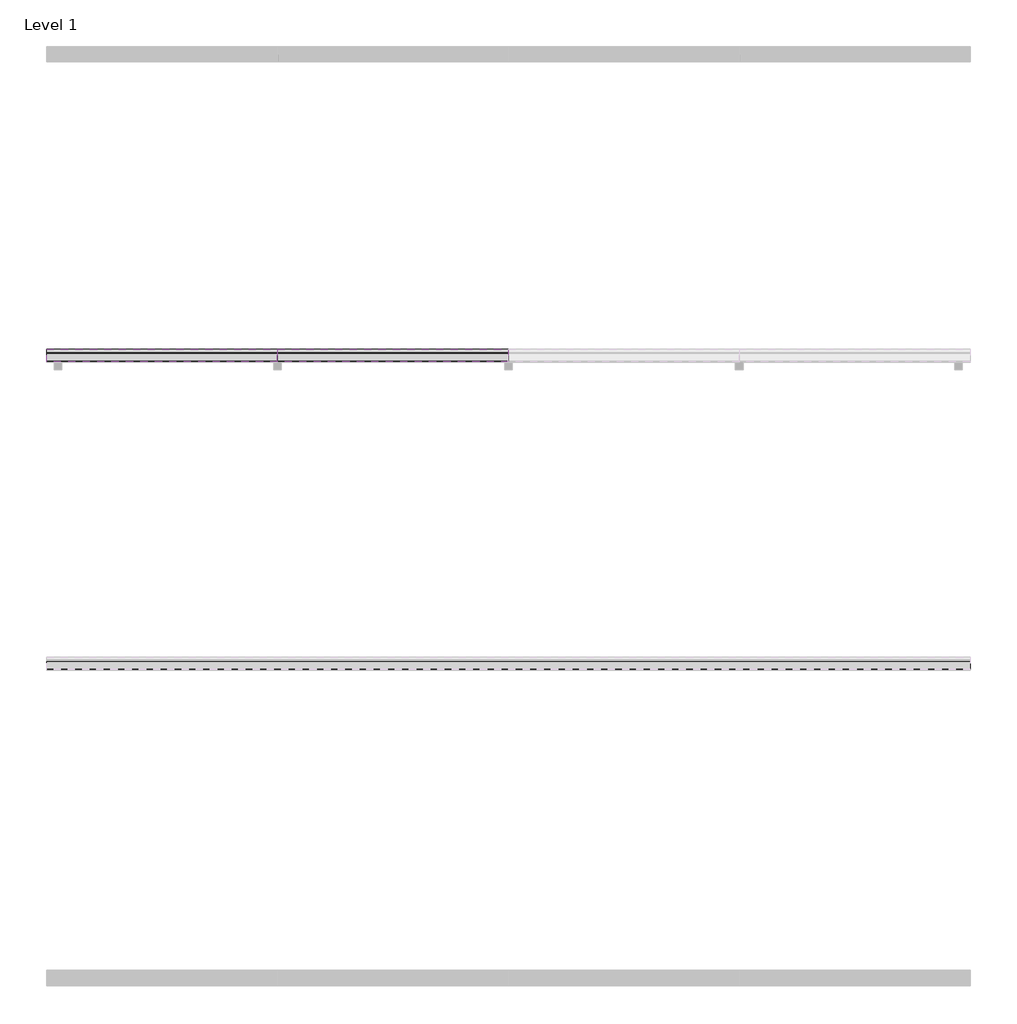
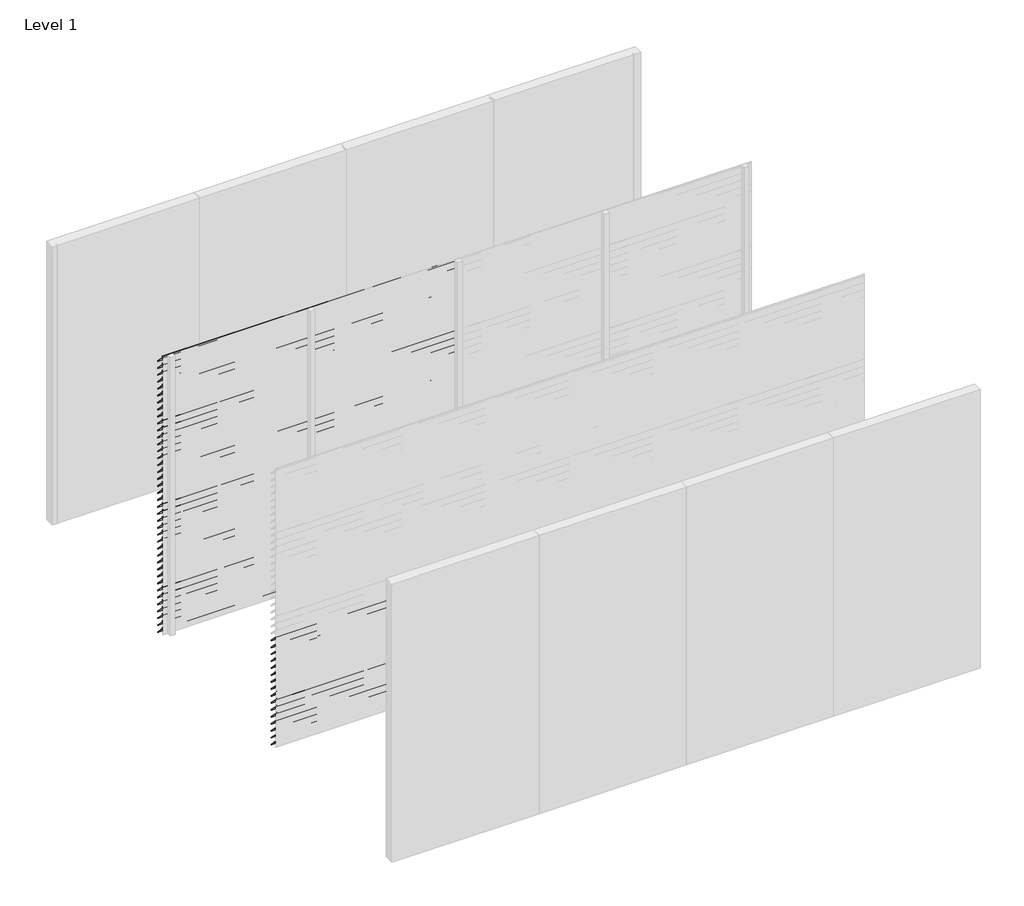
# One storey, part 4 of 9: 95 proxies.
"""IFC4 building model written with IfcOpenShell, lengths in millimetres."""

from ifc_helpers import new_model, si_unit, frame, origin, place, context, project, spatial, polyline, outline, extrude, element, save

model = new_model("IFC4")

# Units and contexts
model_context = context("Model", 3, world=origin())
ifc_project = project(units=[si_unit("LENGTHUNIT", "METRE", prefix="MILLI")], contexts=[model_context])

# Site, building, storey
site = spatial("IfcSite", under=ifc_project)
building = spatial("IfcBuilding", under=site)
storey = spatial("IfcBuildingStorey", under=building, Name="Level 1", Elevation=0.0)

# Proxies
placement = place(None, origin())
element("IfcBuildingElementProxy", 1, Name="Wall Sweeps", at=placement, inside=storey, context=model_context, shape_type="SweptSolid", body=[
    extrude(outline(polyline([(-11995.0, 3000.0), (-11995.0, 2987.7713645), (-11917.0, 2907.0), (-11917.0, 2898.0), (-11997.0, 2980.8424251), (-11997.0, 3000.0), (-11995.0, 3000.0)])), frame((0.0, 0.0, 0.0), z_axis=(1.0, 0.0, 0.0), x_axis=(0.0, 1.0, 0.0)), (0.0, 0.0, 1.0), 1500.0),
])
element("IfcBuildingElementProxy", 2, Name="Wall Sweeps", at=placement, inside=storey, context=model_context, shape_type="SweptSolid", body=[
    extrude(outline(polyline([(-11995.0, 2925.0), (-11995.0, 2912.7713645), (-11917.0, 2832.0), (-11917.0, 2823.0), (-11997.0, 2905.8424251), (-11997.0, 2925.0), (-11995.0, 2925.0)])), frame((0.0, 0.0, 0.0), z_axis=(1.0, 0.0, 0.0), x_axis=(0.0, 1.0, 0.0)), (0.0, 0.0, 1.0), 1500.0),
])
element("IfcBuildingElementProxy", 3, Name="Wall Sweeps", at=placement, inside=storey, context=model_context, shape_type="SweptSolid", body=[
    extrude(outline(polyline([(-11995.0, 2850.0), (-11995.0, 2837.7713645), (-11917.0, 2757.0), (-11917.0, 2748.0), (-11997.0, 2830.8424251), (-11997.0, 2850.0), (-11995.0, 2850.0)])), frame((0.0, 0.0, 0.0), z_axis=(1.0, 0.0, 0.0), x_axis=(0.0, 1.0, 0.0)), (0.0, 0.0, 1.0), 1500.0),
])
element("IfcBuildingElementProxy", 4, Name="Wall Sweeps", at=placement, inside=storey, context=model_context, shape_type="SweptSolid", body=[
    extrude(outline(polyline([(-11995.0, 2775.0), (-11995.0, 2762.7713645), (-11917.0, 2682.0), (-11917.0, 2673.0), (-11997.0, 2755.8424251), (-11997.0, 2775.0), (-11995.0, 2775.0)])), frame((0.0, 0.0, 0.0), z_axis=(1.0, 0.0, 0.0), x_axis=(0.0, 1.0, 0.0)), (0.0, 0.0, 1.0), 1500.0),
])
element("IfcBuildingElementProxy", 5, Name="Wall Sweeps", at=placement, inside=storey, context=model_context, shape_type="SweptSolid", body=[
    extrude(outline(polyline([(-11995.0, 2700.0), (-11995.0, 2687.7713645), (-11917.0, 2607.0), (-11917.0, 2598.0), (-11997.0, 2680.8424251), (-11997.0, 2700.0), (-11995.0, 2700.0)])), frame((0.0, 0.0, 0.0), z_axis=(1.0, 0.0, 0.0), x_axis=(0.0, 1.0, 0.0)), (0.0, 0.0, 1.0), 1500.0),
])
element("IfcBuildingElementProxy", 6, Name="Wall Sweeps", at=placement, inside=storey, context=model_context, shape_type="SweptSolid", body=[
    extrude(outline(polyline([(-11995.0, 2625.0), (-11995.0, 2612.7713645), (-11917.0, 2532.0), (-11917.0, 2523.0), (-11997.0, 2605.8424251), (-11997.0, 2625.0), (-11995.0, 2625.0)])), frame((0.0, 0.0, 0.0), z_axis=(1.0, 0.0, 0.0), x_axis=(0.0, 1.0, 0.0)), (0.0, 0.0, 1.0), 1500.0),
])
element("IfcBuildingElementProxy", 7, Name="Wall Sweeps", at=placement, inside=storey, context=model_context, shape_type="SweptSolid", body=[
    extrude(outline(polyline([(-11995.0, 2550.0), (-11995.0, 2537.7713645), (-11917.0, 2457.0), (-11917.0, 2448.0), (-11997.0, 2530.8424251), (-11997.0, 2550.0), (-11995.0, 2550.0)])), frame((0.0, 0.0, 0.0), z_axis=(1.0, 0.0, 0.0), x_axis=(0.0, 1.0, 0.0)), (0.0, 0.0, 1.0), 1500.0),
])
element("IfcBuildingElementProxy", 8, Name="Wall Sweeps", at=placement, inside=storey, context=model_context, shape_type="SweptSolid", body=[
    extrude(outline(polyline([(-11995.0, 2475.0), (-11995.0, 2462.7713645), (-11917.0, 2382.0), (-11917.0, 2373.0), (-11997.0, 2455.8424251), (-11997.0, 2475.0), (-11995.0, 2475.0)])), frame((0.0, 0.0, 0.0), z_axis=(1.0, 0.0, 0.0), x_axis=(0.0, 1.0, 0.0)), (0.0, 0.0, 1.0), 1500.0),
])
element("IfcBuildingElementProxy", 9, Name="Wall Sweeps", at=placement, inside=storey, context=model_context, shape_type="SweptSolid", body=[
    extrude(outline(polyline([(-11995.0, 2400.0), (-11995.0, 2387.7713645), (-11917.0, 2307.0), (-11917.0, 2298.0), (-11997.0, 2380.8424251), (-11997.0, 2400.0), (-11995.0, 2400.0)])), frame((0.0, 0.0, 0.0), z_axis=(1.0, 0.0, 0.0), x_axis=(0.0, 1.0, 0.0)), (0.0, 0.0, 1.0), 1500.0),
])
element("IfcBuildingElementProxy", 10, Name="Wall Sweeps", at=placement, inside=storey, context=model_context, shape_type="SweptSolid", body=[
    extrude(outline(polyline([(-11995.0, 2325.0), (-11995.0, 2312.7713645), (-11917.0, 2232.0), (-11917.0, 2223.0), (-11997.0, 2305.8424251), (-11997.0, 2325.0), (-11995.0, 2325.0)])), frame((0.0, 0.0, 0.0), z_axis=(1.0, 0.0, 0.0), x_axis=(0.0, 1.0, 0.0)), (0.0, 0.0, 1.0), 1500.0),
])
element("IfcBuildingElementProxy", 11, Name="Wall Sweeps", at=placement, inside=storey, context=model_context, shape_type="SweptSolid", body=[
    extrude(outline(polyline([(-11995.0, 2250.0), (-11995.0, 2237.7713645), (-11917.0, 2157.0), (-11917.0, 2148.0), (-11997.0, 2230.8424251), (-11997.0, 2250.0), (-11995.0, 2250.0)])), frame((0.0, 0.0, 0.0), z_axis=(1.0, 0.0, 0.0), x_axis=(0.0, 1.0, 0.0)), (0.0, 0.0, 1.0), 1500.0),
])
element("IfcBuildingElementProxy", 12, Name="Wall Sweeps", at=placement, inside=storey, context=model_context, shape_type="SweptSolid", body=[
    extrude(outline(polyline([(-11995.0, 2175.0), (-11995.0, 2162.7713645), (-11917.0, 2082.0), (-11917.0, 2073.0), (-11997.0, 2155.8424251), (-11997.0, 2175.0), (-11995.0, 2175.0)])), frame((0.0, 0.0, 0.0), z_axis=(1.0, 0.0, 0.0), x_axis=(0.0, 1.0, 0.0)), (0.0, 0.0, 1.0), 1500.0),
])
element("IfcBuildingElementProxy", 13, Name="Wall Sweeps", at=placement, inside=storey, context=model_context, shape_type="SweptSolid", body=[
    extrude(outline(polyline([(-11995.0, 2100.0), (-11995.0, 2087.7713645), (-11917.0, 2007.0), (-11917.0, 1998.0), (-11997.0, 2080.8424251), (-11997.0, 2100.0), (-11995.0, 2100.0)])), frame((0.0, 0.0, 0.0), z_axis=(1.0, 0.0, 0.0), x_axis=(0.0, 1.0, 0.0)), (0.0, 0.0, 1.0), 1500.0),
])
element("IfcBuildingElementProxy", 14, Name="Wall Sweeps", at=placement, inside=storey, context=model_context, shape_type="SweptSolid", body=[
    extrude(outline(polyline([(-11995.0, 2025.0), (-11995.0, 2012.7713645), (-11917.0, 1932.0), (-11917.0, 1923.0), (-11997.0, 2005.8424251), (-11997.0, 2025.0), (-11995.0, 2025.0)])), frame((0.0, 0.0, 0.0), z_axis=(1.0, 0.0, 0.0), x_axis=(0.0, 1.0, 0.0)), (0.0, 0.0, 1.0), 1500.0),
])
element("IfcBuildingElementProxy", 15, Name="Wall Sweeps", at=placement, inside=storey, context=model_context, shape_type="SweptSolid", body=[
    extrude(outline(polyline([(-11995.0, 1950.0), (-11995.0, 1937.7713645), (-11917.0, 1857.0), (-11917.0, 1848.0), (-11997.0, 1930.8424251), (-11997.0, 1950.0), (-11995.0, 1950.0)])), frame((0.0, 0.0, 0.0), z_axis=(1.0, 0.0, 0.0), x_axis=(0.0, 1.0, 0.0)), (0.0, 0.0, 1.0), 1500.0),
])
element("IfcBuildingElementProxy", 16, Name="Wall Sweeps", at=placement, inside=storey, context=model_context, shape_type="SweptSolid", body=[
    extrude(outline(polyline([(-11995.0, 1875.0), (-11995.0, 1862.7713645), (-11917.0, 1782.0), (-11917.0, 1773.0), (-11997.0, 1855.8424251), (-11997.0, 1875.0), (-11995.0, 1875.0)])), frame((0.0, 0.0, 0.0), z_axis=(1.0, 0.0, 0.0), x_axis=(0.0, 1.0, 0.0)), (0.0, 0.0, 1.0), 1500.0),
])
element("IfcBuildingElementProxy", 17, Name="Wall Sweeps", at=placement, inside=storey, context=model_context, shape_type="SweptSolid", body=[
    extrude(outline(polyline([(-11995.0, 1800.0), (-11995.0, 1787.7713645), (-11917.0, 1707.0), (-11917.0, 1698.0), (-11997.0, 1780.8424251), (-11997.0, 1800.0), (-11995.0, 1800.0)])), frame((0.0, 0.0, 0.0), z_axis=(1.0, 0.0, 0.0), x_axis=(0.0, 1.0, 0.0)), (0.0, 0.0, 1.0), 1500.0),
])
element("IfcBuildingElementProxy", 18, Name="Wall Sweeps", at=placement, inside=storey, context=model_context, shape_type="SweptSolid", body=[
    extrude(outline(polyline([(-11995.0, 1725.0), (-11995.0, 1712.7713645), (-11917.0, 1632.0), (-11917.0, 1623.0), (-11997.0, 1705.8424251), (-11997.0, 1725.0), (-11995.0, 1725.0)])), frame((0.0, 0.0, 0.0), z_axis=(1.0, 0.0, 0.0), x_axis=(0.0, 1.0, 0.0)), (0.0, 0.0, 1.0), 1500.0),
])
element("IfcBuildingElementProxy", 19, Name="Wall Sweeps", at=placement, inside=storey, context=model_context, shape_type="SweptSolid", body=[
    extrude(outline(polyline([(-11995.0, 1650.0), (-11995.0, 1637.7713645), (-11917.0, 1557.0), (-11917.0, 1548.0), (-11997.0, 1630.8424251), (-11997.0, 1650.0), (-11995.0, 1650.0)])), frame((0.0, 0.0, 0.0), z_axis=(1.0, 0.0, 0.0), x_axis=(0.0, 1.0, 0.0)), (0.0, 0.0, 1.0), 1500.0),
])
element("IfcBuildingElementProxy", 20, Name="Wall Sweeps", at=placement, inside=storey, context=model_context, shape_type="SweptSolid", body=[
    extrude(outline(polyline([(-11995.0, 1575.0), (-11995.0, 1562.7713645), (-11917.0, 1482.0), (-11917.0, 1473.0), (-11997.0, 1555.8424251), (-11997.0, 1575.0), (-11995.0, 1575.0)])), frame((0.0, 0.0, 0.0), z_axis=(1.0, 0.0, 0.0), x_axis=(0.0, 1.0, 0.0)), (0.0, 0.0, 1.0), 1500.0),
])
element("IfcBuildingElementProxy", 21, Name="Wall Sweeps", at=placement, inside=storey, context=model_context, shape_type="SweptSolid", body=[
    extrude(outline(polyline([(-11995.0, 1500.0), (-11995.0, 1487.7713645), (-11917.0, 1407.0), (-11917.0, 1398.0), (-11997.0, 1480.8424251), (-11997.0, 1500.0), (-11995.0, 1500.0)])), frame((0.0, 0.0, 0.0), z_axis=(1.0, 0.0, 0.0), x_axis=(0.0, 1.0, 0.0)), (0.0, 0.0, 1.0), 1500.0),
])
element("IfcBuildingElementProxy", 22, Name="Wall Sweeps", at=placement, inside=storey, context=model_context, shape_type="SweptSolid", body=[
    extrude(outline(polyline([(-11995.0, 1425.0), (-11995.0, 1412.7713645), (-11917.0, 1332.0), (-11917.0, 1323.0), (-11997.0, 1405.8424251), (-11997.0, 1425.0), (-11995.0, 1425.0)])), frame((0.0, 0.0, 0.0), z_axis=(1.0, 0.0, 0.0), x_axis=(0.0, 1.0, 0.0)), (0.0, 0.0, 1.0), 1500.0),
])
element("IfcBuildingElementProxy", 23, Name="Wall Sweeps", at=placement, inside=storey, context=model_context, shape_type="SweptSolid", body=[
    extrude(outline(polyline([(-11995.0, 1350.0), (-11995.0, 1337.7713645), (-11917.0, 1257.0), (-11917.0, 1248.0), (-11997.0, 1330.8424251), (-11997.0, 1350.0), (-11995.0, 1350.0)])), frame((0.0, 0.0, 0.0), z_axis=(1.0, 0.0, 0.0), x_axis=(0.0, 1.0, 0.0)), (0.0, 0.0, 1.0), 1500.0),
])
element("IfcBuildingElementProxy", 24, Name="Wall Sweeps", at=placement, inside=storey, context=model_context, shape_type="SweptSolid", body=[
    extrude(outline(polyline([(-11995.0, 1275.0), (-11995.0, 1262.7713645), (-11917.0, 1182.0), (-11917.0, 1173.0), (-11997.0, 1255.8424251), (-11997.0, 1275.0), (-11995.0, 1275.0)])), frame((0.0, 0.0, 0.0), z_axis=(1.0, 0.0, 0.0), x_axis=(0.0, 1.0, 0.0)), (0.0, 0.0, 1.0), 1500.0),
])
element("IfcBuildingElementProxy", 25, Name="Wall Sweeps", at=placement, inside=storey, context=model_context, shape_type="SweptSolid", body=[
    extrude(outline(polyline([(-11995.0, 1200.0), (-11995.0, 1187.7713645), (-11917.0, 1107.0), (-11917.0, 1098.0), (-11997.0, 1180.8424251), (-11997.0, 1200.0), (-11995.0, 1200.0)])), frame((0.0, 0.0, 0.0), z_axis=(1.0, 0.0, 0.0), x_axis=(0.0, 1.0, 0.0)), (0.0, 0.0, 1.0), 1500.0),
])
element("IfcBuildingElementProxy", 26, Name="Wall Sweeps", at=placement, inside=storey, context=model_context, shape_type="SweptSolid", body=[
    extrude(outline(polyline([(-11995.0, 1125.0), (-11995.0, 1112.7713645), (-11917.0, 1032.0), (-11917.0, 1023.0), (-11997.0, 1105.8424251), (-11997.0, 1125.0), (-11995.0, 1125.0)])), frame((0.0, 0.0, 0.0), z_axis=(1.0, 0.0, 0.0), x_axis=(0.0, 1.0, 0.0)), (0.0, 0.0, 1.0), 1500.0),
])
element("IfcBuildingElementProxy", 27, Name="Wall Sweeps", at=placement, inside=storey, context=model_context, shape_type="SweptSolid", body=[
    extrude(outline(polyline([(-11995.0, 1050.0), (-11995.0, 1037.7713645), (-11917.0, 957.0), (-11917.0, 948.0), (-11997.0, 1030.8424251), (-11997.0, 1050.0), (-11995.0, 1050.0)])), frame((0.0, 0.0, 0.0), z_axis=(1.0, 0.0, 0.0), x_axis=(0.0, 1.0, 0.0)), (0.0, 0.0, 1.0), 1500.0),
])
element("IfcBuildingElementProxy", 28, Name="Wall Sweeps", at=placement, inside=storey, context=model_context, shape_type="SweptSolid", body=[
    extrude(outline(polyline([(-11995.0, 975.0), (-11995.0, 962.7713645), (-11917.0, 882.0), (-11917.0, 873.0), (-11997.0, 955.8424251), (-11997.0, 975.0), (-11995.0, 975.0)])), frame((0.0, 0.0, 0.0), z_axis=(1.0, 0.0, 0.0), x_axis=(0.0, 1.0, 0.0)), (0.0, 0.0, 1.0), 1500.0),
])
element("IfcBuildingElementProxy", 29, Name="Wall Sweeps", at=placement, inside=storey, context=model_context, shape_type="SweptSolid", body=[
    extrude(outline(polyline([(-11995.0, 900.0), (-11995.0, 887.7713645), (-11917.0, 807.0), (-11917.0, 798.0), (-11997.0, 880.8424251), (-11997.0, 900.0), (-11995.0, 900.0)])), frame((0.0, 0.0, 0.0), z_axis=(1.0, 0.0, 0.0), x_axis=(0.0, 1.0, 0.0)), (0.0, 0.0, 1.0), 1500.0),
])
element("IfcBuildingElementProxy", 30, Name="Wall Sweeps", at=placement, inside=storey, context=model_context, shape_type="SweptSolid", body=[
    extrude(outline(polyline([(-11995.0, 825.0), (-11995.0, 812.7713645), (-11917.0, 732.0), (-11917.0, 723.0), (-11997.0, 805.8424251), (-11997.0, 825.0), (-11995.0, 825.0)])), frame((0.0, 0.0, 0.0), z_axis=(1.0, 0.0, 0.0), x_axis=(0.0, 1.0, 0.0)), (0.0, 0.0, 1.0), 1500.0),
])
element("IfcBuildingElementProxy", 31, Name="Wall Sweeps", at=placement, inside=storey, context=model_context, shape_type="SweptSolid", body=[
    extrude(outline(polyline([(-11995.0, 750.0), (-11995.0, 737.7713645), (-11917.0, 657.0), (-11917.0, 648.0), (-11997.0, 730.8424251), (-11997.0, 750.0), (-11995.0, 750.0)])), frame((0.0, 0.0, 0.0), z_axis=(1.0, 0.0, 0.0), x_axis=(0.0, 1.0, 0.0)), (0.0, 0.0, 1.0), 1500.0),
])
element("IfcBuildingElementProxy", 32, Name="Wall Sweeps", at=placement, inside=storey, context=model_context, shape_type="SweptSolid", body=[
    extrude(outline(polyline([(-11995.0, 675.0), (-11995.0, 662.7713645), (-11917.0, 582.0), (-11917.0, 573.0), (-11997.0, 655.8424251), (-11997.0, 675.0), (-11995.0, 675.0)])), frame((0.0, 0.0, 0.0), z_axis=(1.0, 0.0, 0.0), x_axis=(0.0, 1.0, 0.0)), (0.0, 0.0, 1.0), 1500.0),
])
element("IfcBuildingElementProxy", 33, Name="Wall Sweeps", at=placement, inside=storey, context=model_context, shape_type="SweptSolid", body=[
    extrude(outline(polyline([(-11995.0, 600.0), (-11995.0, 587.7713645), (-11917.0, 507.0), (-11917.0, 498.0), (-11997.0, 580.8424251), (-11997.0, 600.0), (-11995.0, 600.0)])), frame((0.0, 0.0, 0.0), z_axis=(1.0, 0.0, 0.0), x_axis=(0.0, 1.0, 0.0)), (0.0, 0.0, 1.0), 1500.0),
])
element("IfcBuildingElementProxy", 34, Name="Wall Sweeps", at=placement, inside=storey, context=model_context, shape_type="SweptSolid", body=[
    extrude(outline(polyline([(-11995.0, 525.0), (-11995.0, 512.7713645), (-11917.0, 432.0), (-11917.0, 423.0), (-11997.0, 505.8424251), (-11997.0, 525.0), (-11995.0, 525.0)])), frame((0.0, 0.0, 0.0), z_axis=(1.0, 0.0, 0.0), x_axis=(0.0, 1.0, 0.0)), (0.0, 0.0, 1.0), 1500.0),
])
element("IfcBuildingElementProxy", 35, Name="Wall Sweeps", at=placement, inside=storey, context=model_context, shape_type="SweptSolid", body=[
    extrude(outline(polyline([(-11995.0, 450.0), (-11995.0, 437.7713645), (-11917.0, 357.0), (-11917.0, 348.0), (-11997.0, 430.8424251), (-11997.0, 450.0), (-11995.0, 450.0)])), frame((0.0, 0.0, 0.0), z_axis=(1.0, 0.0, 0.0), x_axis=(0.0, 1.0, 0.0)), (0.0, 0.0, 1.0), 1500.0),
])
element("IfcBuildingElementProxy", 36, Name="Wall Sweeps", at=placement, inside=storey, context=model_context, shape_type="SweptSolid", body=[
    extrude(outline(polyline([(-11995.0, 375.0), (-11995.0, 362.7713645), (-11917.0, 282.0), (-11917.0, 273.0), (-11997.0, 355.8424251), (-11997.0, 375.0), (-11995.0, 375.0)])), frame((0.0, 0.0, 0.0), z_axis=(1.0, 0.0, 0.0), x_axis=(0.0, 1.0, 0.0)), (0.0, 0.0, 1.0), 1500.0),
])
element("IfcBuildingElementProxy", 37, Name="Wall Sweeps", at=placement, inside=storey, context=model_context, shape_type="SweptSolid", body=[
    extrude(outline(polyline([(-11995.0, 300.0), (-11995.0, 287.7713645), (-11917.0, 207.0), (-11917.0, 198.0), (-11997.0, 280.8424251), (-11997.0, 300.0), (-11995.0, 300.0)])), frame((0.0, 0.0, 0.0), z_axis=(1.0, 0.0, 0.0), x_axis=(0.0, 1.0, 0.0)), (0.0, 0.0, 1.0), 1500.0),
])
element("IfcBuildingElementProxy", 38, Name="Wall Sweeps", at=placement, inside=storey, context=model_context, shape_type="SweptSolid", body=[
    extrude(outline(polyline([(-11995.0, 225.0), (-11995.0, 212.7713645), (-11917.0, 132.0), (-11917.0, 123.0), (-11997.0, 205.8424251), (-11997.0, 225.0), (-11995.0, 225.0)])), frame((0.0, 0.0, 0.0), z_axis=(1.0, 0.0, 0.0), x_axis=(0.0, 1.0, 0.0)), (0.0, 0.0, 1.0), 1500.0),
])
element("IfcBuildingElementProxy", 39, Name="Wall Sweeps", at=placement, inside=storey, context=model_context, shape_type="SweptSolid", body=[
    extrude(outline(polyline([(-11995.0, 150.0), (-11995.0, 137.7713645), (-11917.0, 57.0), (-11917.0, 48.0), (-11997.0, 130.8424251), (-11997.0, 150.0), (-11995.0, 150.0)])), frame((0.0, 0.0, 0.0), z_axis=(1.0, 0.0, 0.0), x_axis=(0.0, 1.0, 0.0)), (0.0, 0.0, 1.0), 1500.0),
])
element("IfcBuildingElementProxy", 40, Name="Wall Sweeps", at=placement, inside=storey, context=model_context, shape_type="SweptSolid", body=[
    extrude(outline(polyline([(-11995.0, 75.0), (-11995.0, 62.7713645), (-11917.0, -18.0), (-11917.0, -27.0), (-11997.0, 55.8424251), (-11997.0, 75.0), (-11995.0, 75.0)])), frame((0.0, 0.0, 0.0), z_axis=(1.0, 0.0, 0.0), x_axis=(0.0, 1.0, 0.0)), (0.0, 0.0, 1.0), 1500.0),
])
element("IfcBuildingElementProxy", 41, Name="Wall Sweeps", at=placement, inside=storey, context=model_context, shape_type="SweptSolid", body=[
    extrude(outline(polyline([(-11995.0, 3000.0), (-11995.0, 2987.7713645), (-11917.0, 2907.0), (-11917.0, 2898.0), (-11997.0, 2980.8424251), (-11997.0, 3000.0), (-11995.0, 3000.0)])), frame((1500.0, 0.0, 0.0), z_axis=(1.0, 0.0, 0.0), x_axis=(0.0, 1.0, 0.0)), (0.0, 0.0, 1.0), 1500.0),
])
element("IfcBuildingElementProxy", 42, Name="Wall Sweeps", at=placement, inside=storey, context=model_context, shape_type="SweptSolid", body=[
    extrude(outline(polyline([(-11995.0, 2925.0), (-11995.0, 2912.7713645), (-11917.0, 2832.0), (-11917.0, 2823.0), (-11997.0, 2905.8424251), (-11997.0, 2925.0), (-11995.0, 2925.0)])), frame((1500.0, 0.0, 0.0), z_axis=(1.0, 0.0, 0.0), x_axis=(0.0, 1.0, 0.0)), (0.0, 0.0, 1.0), 1500.0),
])
element("IfcBuildingElementProxy", 43, Name="Wall Sweeps", at=placement, inside=storey, context=model_context, shape_type="SweptSolid", body=[
    extrude(outline(polyline([(-11995.0, 2850.0), (-11995.0, 2837.7713645), (-11917.0, 2757.0), (-11917.0, 2748.0), (-11997.0, 2830.8424251), (-11997.0, 2850.0), (-11995.0, 2850.0)])), frame((1500.0, 0.0, 0.0), z_axis=(1.0, 0.0, 0.0), x_axis=(0.0, 1.0, 0.0)), (0.0, 0.0, 1.0), 1500.0),
])
element("IfcBuildingElementProxy", 44, Name="Wall Sweeps", at=placement, inside=storey, context=model_context, shape_type="SweptSolid", body=[
    extrude(outline(polyline([(-11995.0, 2775.0), (-11995.0, 2762.7713645), (-11917.0, 2682.0), (-11917.0, 2673.0), (-11997.0, 2755.8424251), (-11997.0, 2775.0), (-11995.0, 2775.0)])), frame((1500.0, 0.0, 0.0), z_axis=(1.0, 0.0, 0.0), x_axis=(0.0, 1.0, 0.0)), (0.0, 0.0, 1.0), 1500.0),
])
element("IfcBuildingElementProxy", 45, Name="Wall Sweeps", at=placement, inside=storey, context=model_context, shape_type="SweptSolid", body=[
    extrude(outline(polyline([(-11995.0, 2700.0), (-11995.0, 2687.7713645), (-11917.0, 2607.0), (-11917.0, 2598.0), (-11997.0, 2680.8424251), (-11997.0, 2700.0), (-11995.0, 2700.0)])), frame((1500.0, 0.0, 0.0), z_axis=(1.0, 0.0, 0.0), x_axis=(0.0, 1.0, 0.0)), (0.0, 0.0, 1.0), 1500.0),
])
element("IfcBuildingElementProxy", 46, Name="Wall Sweeps", at=placement, inside=storey, context=model_context, shape_type="SweptSolid", body=[
    extrude(outline(polyline([(-11995.0, 2625.0), (-11995.0, 2612.7713645), (-11917.0, 2532.0), (-11917.0, 2523.0), (-11997.0, 2605.8424251), (-11997.0, 2625.0), (-11995.0, 2625.0)])), frame((1500.0, 0.0, 0.0), z_axis=(1.0, 0.0, 0.0), x_axis=(0.0, 1.0, 0.0)), (0.0, 0.0, 1.0), 1500.0),
])
element("IfcBuildingElementProxy", 47, Name="Wall Sweeps", at=placement, inside=storey, context=model_context, shape_type="SweptSolid", body=[
    extrude(outline(polyline([(-11995.0, 2550.0), (-11995.0, 2537.7713645), (-11917.0, 2457.0), (-11917.0, 2448.0), (-11997.0, 2530.8424251), (-11997.0, 2550.0), (-11995.0, 2550.0)])), frame((1500.0, 0.0, 0.0), z_axis=(1.0, 0.0, 0.0), x_axis=(0.0, 1.0, 0.0)), (0.0, 0.0, 1.0), 1500.0),
])
element("IfcBuildingElementProxy", 48, Name="Wall Sweeps", at=placement, inside=storey, context=model_context, shape_type="SweptSolid", body=[
    extrude(outline(polyline([(-11995.0, 2475.0), (-11995.0, 2462.7713645), (-11917.0, 2382.0), (-11917.0, 2373.0), (-11997.0, 2455.8424251), (-11997.0, 2475.0), (-11995.0, 2475.0)])), frame((1500.0, 0.0, 0.0), z_axis=(1.0, 0.0, 0.0), x_axis=(0.0, 1.0, 0.0)), (0.0, 0.0, 1.0), 1500.0),
])
element("IfcBuildingElementProxy", 49, Name="Wall Sweeps", at=placement, inside=storey, context=model_context, shape_type="SweptSolid", body=[
    extrude(outline(polyline([(-11995.0, 2400.0), (-11995.0, 2387.7713645), (-11917.0, 2307.0), (-11917.0, 2298.0), (-11997.0, 2380.8424251), (-11997.0, 2400.0), (-11995.0, 2400.0)])), frame((1500.0, 0.0, 0.0), z_axis=(1.0, 0.0, 0.0), x_axis=(0.0, 1.0, 0.0)), (0.0, 0.0, 1.0), 1500.0),
])
element("IfcBuildingElementProxy", 50, Name="Wall Sweeps", at=placement, inside=storey, context=model_context, shape_type="SweptSolid", body=[
    extrude(outline(polyline([(-11995.0, 2325.0), (-11995.0, 2312.7713645), (-11917.0, 2232.0), (-11917.0, 2223.0), (-11997.0, 2305.8424251), (-11997.0, 2325.0), (-11995.0, 2325.0)])), frame((1500.0, 0.0, 0.0), z_axis=(1.0, 0.0, 0.0), x_axis=(0.0, 1.0, 0.0)), (0.0, 0.0, 1.0), 1500.0),
])
element("IfcBuildingElementProxy", 51, Name="Wall Sweeps", at=placement, inside=storey, context=model_context, shape_type="SweptSolid", body=[
    extrude(outline(polyline([(-11995.0, 2250.0), (-11995.0, 2237.7713645), (-11917.0, 2157.0), (-11917.0, 2148.0), (-11997.0, 2230.8424251), (-11997.0, 2250.0), (-11995.0, 2250.0)])), frame((1500.0, 0.0, 0.0), z_axis=(1.0, 0.0, 0.0), x_axis=(0.0, 1.0, 0.0)), (0.0, 0.0, 1.0), 1500.0),
])
element("IfcBuildingElementProxy", 52, Name="Wall Sweeps", at=placement, inside=storey, context=model_context, shape_type="SweptSolid", body=[
    extrude(outline(polyline([(-11995.0, 2175.0), (-11995.0, 2162.7713645), (-11917.0, 2082.0), (-11917.0, 2073.0), (-11997.0, 2155.8424251), (-11997.0, 2175.0), (-11995.0, 2175.0)])), frame((1500.0, 0.0, 0.0), z_axis=(1.0, 0.0, 0.0), x_axis=(0.0, 1.0, 0.0)), (0.0, 0.0, 1.0), 1500.0),
])
element("IfcBuildingElementProxy", 53, Name="Wall Sweeps", at=placement, inside=storey, context=model_context, shape_type="SweptSolid", body=[
    extrude(outline(polyline([(-11995.0, 2100.0), (-11995.0, 2087.7713645), (-11917.0, 2007.0), (-11917.0, 1998.0), (-11997.0, 2080.8424251), (-11997.0, 2100.0), (-11995.0, 2100.0)])), frame((1500.0, 0.0, 0.0), z_axis=(1.0, 0.0, 0.0), x_axis=(0.0, 1.0, 0.0)), (0.0, 0.0, 1.0), 1500.0),
])
element("IfcBuildingElementProxy", 54, Name="Wall Sweeps", at=placement, inside=storey, context=model_context, shape_type="SweptSolid", body=[
    extrude(outline(polyline([(-11995.0, 2025.0), (-11995.0, 2012.7713645), (-11917.0, 1932.0), (-11917.0, 1923.0), (-11997.0, 2005.8424251), (-11997.0, 2025.0), (-11995.0, 2025.0)])), frame((1500.0, 0.0, 0.0), z_axis=(1.0, 0.0, 0.0), x_axis=(0.0, 1.0, 0.0)), (0.0, 0.0, 1.0), 1500.0),
])
element("IfcBuildingElementProxy", 55, Name="Wall Sweeps", at=placement, inside=storey, context=model_context, shape_type="SweptSolid", body=[
    extrude(outline(polyline([(-11995.0, 1950.0), (-11995.0, 1937.7713645), (-11917.0, 1857.0), (-11917.0, 1848.0), (-11997.0, 1930.8424251), (-11997.0, 1950.0), (-11995.0, 1950.0)])), frame((1500.0, 0.0, 0.0), z_axis=(1.0, 0.0, 0.0), x_axis=(0.0, 1.0, 0.0)), (0.0, 0.0, 1.0), 1500.0),
])
element("IfcBuildingElementProxy", 56, Name="Wall Sweeps", at=placement, inside=storey, context=model_context, shape_type="SweptSolid", body=[
    extrude(outline(polyline([(-11995.0, 1875.0), (-11995.0, 1862.7713645), (-11917.0, 1782.0), (-11917.0, 1773.0), (-11997.0, 1855.8424251), (-11997.0, 1875.0), (-11995.0, 1875.0)])), frame((1500.0, 0.0, 0.0), z_axis=(1.0, 0.0, 0.0), x_axis=(0.0, 1.0, 0.0)), (0.0, 0.0, 1.0), 1500.0),
])
element("IfcBuildingElementProxy", 57, Name="Wall Sweeps", at=placement, inside=storey, context=model_context, shape_type="SweptSolid", body=[
    extrude(outline(polyline([(-11995.0, 1800.0), (-11995.0, 1787.7713645), (-11917.0, 1707.0), (-11917.0, 1698.0), (-11997.0, 1780.8424251), (-11997.0, 1800.0), (-11995.0, 1800.0)])), frame((1500.0, 0.0, 0.0), z_axis=(1.0, 0.0, 0.0), x_axis=(0.0, 1.0, 0.0)), (0.0, 0.0, 1.0), 1500.0),
])
element("IfcBuildingElementProxy", 58, Name="Wall Sweeps", at=placement, inside=storey, context=model_context, shape_type="SweptSolid", body=[
    extrude(outline(polyline([(-11995.0, 1725.0), (-11995.0, 1712.7713645), (-11917.0, 1632.0), (-11917.0, 1623.0), (-11997.0, 1705.8424251), (-11997.0, 1725.0), (-11995.0, 1725.0)])), frame((1500.0, 0.0, 0.0), z_axis=(1.0, 0.0, 0.0), x_axis=(0.0, 1.0, 0.0)), (0.0, 0.0, 1.0), 1500.0),
])
element("IfcBuildingElementProxy", 59, Name="Wall Sweeps", at=placement, inside=storey, context=model_context, shape_type="SweptSolid", body=[
    extrude(outline(polyline([(-11995.0, 1650.0), (-11995.0, 1637.7713645), (-11917.0, 1557.0), (-11917.0, 1548.0), (-11997.0, 1630.8424251), (-11997.0, 1650.0), (-11995.0, 1650.0)])), frame((1500.0, 0.0, 0.0), z_axis=(1.0, 0.0, 0.0), x_axis=(0.0, 1.0, 0.0)), (0.0, 0.0, 1.0), 1500.0),
])
element("IfcBuildingElementProxy", 60, Name="Wall Sweeps", at=placement, inside=storey, context=model_context, shape_type="SweptSolid", body=[
    extrude(outline(polyline([(-11995.0, 1575.0), (-11995.0, 1562.7713645), (-11917.0, 1482.0), (-11917.0, 1473.0), (-11997.0, 1555.8424251), (-11997.0, 1575.0), (-11995.0, 1575.0)])), frame((1500.0, 0.0, 0.0), z_axis=(1.0, 0.0, 0.0), x_axis=(0.0, 1.0, 0.0)), (0.0, 0.0, 1.0), 1500.0),
])
element("IfcBuildingElementProxy", 61, Name="Wall Sweeps", at=placement, inside=storey, context=model_context, shape_type="SweptSolid", body=[
    extrude(outline(polyline([(-11995.0, 1500.0), (-11995.0, 1487.7713645), (-11917.0, 1407.0), (-11917.0, 1398.0), (-11997.0, 1480.8424251), (-11997.0, 1500.0), (-11995.0, 1500.0)])), frame((1500.0, 0.0, 0.0), z_axis=(1.0, 0.0, 0.0), x_axis=(0.0, 1.0, 0.0)), (0.0, 0.0, 1.0), 1500.0),
])
element("IfcBuildingElementProxy", 62, Name="Wall Sweeps", at=placement, inside=storey, context=model_context, shape_type="SweptSolid", body=[
    extrude(outline(polyline([(-11995.0, 1425.0), (-11995.0, 1412.7713645), (-11917.0, 1332.0), (-11917.0, 1323.0), (-11997.0, 1405.8424251), (-11997.0, 1425.0), (-11995.0, 1425.0)])), frame((1500.0, 0.0, 0.0), z_axis=(1.0, 0.0, 0.0), x_axis=(0.0, 1.0, 0.0)), (0.0, 0.0, 1.0), 1500.0),
])
element("IfcBuildingElementProxy", 63, Name="Wall Sweeps", at=placement, inside=storey, context=model_context, shape_type="SweptSolid", body=[
    extrude(outline(polyline([(-11995.0, 1350.0), (-11995.0, 1337.7713645), (-11917.0, 1257.0), (-11917.0, 1248.0), (-11997.0, 1330.8424251), (-11997.0, 1350.0), (-11995.0, 1350.0)])), frame((1500.0, 0.0, 0.0), z_axis=(1.0, 0.0, 0.0), x_axis=(0.0, 1.0, 0.0)), (0.0, 0.0, 1.0), 1500.0),
])
element("IfcBuildingElementProxy", 64, Name="Wall Sweeps", at=placement, inside=storey, context=model_context, shape_type="SweptSolid", body=[
    extrude(outline(polyline([(-11995.0, 1275.0), (-11995.0, 1262.7713645), (-11917.0, 1182.0), (-11917.0, 1173.0), (-11997.0, 1255.8424251), (-11997.0, 1275.0), (-11995.0, 1275.0)])), frame((1500.0, 0.0, 0.0), z_axis=(1.0, 0.0, 0.0), x_axis=(0.0, 1.0, 0.0)), (0.0, 0.0, 1.0), 1500.0),
])
element("IfcBuildingElementProxy", 65, Name="Wall Sweeps", at=placement, inside=storey, context=model_context, shape_type="SweptSolid", body=[
    extrude(outline(polyline([(-11995.0, 1200.0), (-11995.0, 1187.7713645), (-11917.0, 1107.0), (-11917.0, 1098.0), (-11997.0, 1180.8424251), (-11997.0, 1200.0), (-11995.0, 1200.0)])), frame((1500.0, 0.0, 0.0), z_axis=(1.0, 0.0, 0.0), x_axis=(0.0, 1.0, 0.0)), (0.0, 0.0, 1.0), 1500.0),
])
element("IfcBuildingElementProxy", 66, Name="Wall Sweeps", at=placement, inside=storey, context=model_context, shape_type="SweptSolid", body=[
    extrude(outline(polyline([(-11995.0, 1125.0), (-11995.0, 1112.7713645), (-11917.0, 1032.0), (-11917.0, 1023.0), (-11997.0, 1105.8424251), (-11997.0, 1125.0), (-11995.0, 1125.0)])), frame((1500.0, 0.0, 0.0), z_axis=(1.0, 0.0, 0.0), x_axis=(0.0, 1.0, 0.0)), (0.0, 0.0, 1.0), 1500.0),
])
element("IfcBuildingElementProxy", 67, Name="Wall Sweeps", at=placement, inside=storey, context=model_context, shape_type="SweptSolid", body=[
    extrude(outline(polyline([(-11995.0, 1050.0), (-11995.0, 1037.7713645), (-11917.0, 957.0), (-11917.0, 948.0), (-11997.0, 1030.8424251), (-11997.0, 1050.0), (-11995.0, 1050.0)])), frame((1500.0, 0.0, 0.0), z_axis=(1.0, 0.0, 0.0), x_axis=(0.0, 1.0, 0.0)), (0.0, 0.0, 1.0), 1500.0),
])
element("IfcBuildingElementProxy", 68, Name="Wall Sweeps", at=placement, inside=storey, context=model_context, shape_type="SweptSolid", body=[
    extrude(outline(polyline([(-11995.0, 975.0), (-11995.0, 962.7713645), (-11917.0, 882.0), (-11917.0, 873.0), (-11997.0, 955.8424251), (-11997.0, 975.0), (-11995.0, 975.0)])), frame((1500.0, 0.0, 0.0), z_axis=(1.0, 0.0, 0.0), x_axis=(0.0, 1.0, 0.0)), (0.0, 0.0, 1.0), 1500.0),
])
element("IfcBuildingElementProxy", 69, Name="Wall Sweeps", at=placement, inside=storey, context=model_context, shape_type="SweptSolid", body=[
    extrude(outline(polyline([(-11995.0, 900.0), (-11995.0, 887.7713645), (-11917.0, 807.0), (-11917.0, 798.0), (-11997.0, 880.8424251), (-11997.0, 900.0), (-11995.0, 900.0)])), frame((1500.0, 0.0, 0.0), z_axis=(1.0, 0.0, 0.0), x_axis=(0.0, 1.0, 0.0)), (0.0, 0.0, 1.0), 1500.0),
])
element("IfcBuildingElementProxy", 70, Name="Wall Sweeps", at=placement, inside=storey, context=model_context, shape_type="SweptSolid", body=[
    extrude(outline(polyline([(-11995.0, 825.0), (-11995.0, 812.7713645), (-11917.0, 732.0), (-11917.0, 723.0), (-11997.0, 805.8424251), (-11997.0, 825.0), (-11995.0, 825.0)])), frame((1500.0, 0.0, 0.0), z_axis=(1.0, 0.0, 0.0), x_axis=(0.0, 1.0, 0.0)), (0.0, 0.0, 1.0), 1500.0),
])
element("IfcBuildingElementProxy", 71, Name="Wall Sweeps", at=placement, inside=storey, context=model_context, shape_type="SweptSolid", body=[
    extrude(outline(polyline([(-11995.0, 750.0), (-11995.0, 737.7713645), (-11917.0, 657.0), (-11917.0, 648.0), (-11997.0, 730.8424251), (-11997.0, 750.0), (-11995.0, 750.0)])), frame((1500.0, 0.0, 0.0), z_axis=(1.0, 0.0, 0.0), x_axis=(0.0, 1.0, 0.0)), (0.0, 0.0, 1.0), 1500.0),
])
element("IfcBuildingElementProxy", 72, Name="Wall Sweeps", at=placement, inside=storey, context=model_context, shape_type="SweptSolid", body=[
    extrude(outline(polyline([(-11995.0, 675.0), (-11995.0, 662.7713645), (-11917.0, 582.0), (-11917.0, 573.0), (-11997.0, 655.8424251), (-11997.0, 675.0), (-11995.0, 675.0)])), frame((1500.0, 0.0, 0.0), z_axis=(1.0, 0.0, 0.0), x_axis=(0.0, 1.0, 0.0)), (0.0, 0.0, 1.0), 1500.0),
])
element("IfcBuildingElementProxy", 73, Name="Wall Sweeps", at=placement, inside=storey, context=model_context, shape_type="SweptSolid", body=[
    extrude(outline(polyline([(-11995.0, 600.0), (-11995.0, 587.7713645), (-11917.0, 507.0), (-11917.0, 498.0), (-11997.0, 580.8424251), (-11997.0, 600.0), (-11995.0, 600.0)])), frame((1500.0, 0.0, 0.0), z_axis=(1.0, 0.0, 0.0), x_axis=(0.0, 1.0, 0.0)), (0.0, 0.0, 1.0), 1500.0),
])
element("IfcBuildingElementProxy", 74, Name="Wall Sweeps", at=placement, inside=storey, context=model_context, shape_type="SweptSolid", body=[
    extrude(outline(polyline([(-11995.0, 525.0), (-11995.0, 512.7713645), (-11917.0, 432.0), (-11917.0, 423.0), (-11997.0, 505.8424251), (-11997.0, 525.0), (-11995.0, 525.0)])), frame((1500.0, 0.0, 0.0), z_axis=(1.0, 0.0, 0.0), x_axis=(0.0, 1.0, 0.0)), (0.0, 0.0, 1.0), 1500.0),
])
element("IfcBuildingElementProxy", 75, Name="Wall Sweeps", at=placement, inside=storey, context=model_context, shape_type="SweptSolid", body=[
    extrude(outline(polyline([(-11995.0, 450.0), (-11995.0, 437.7713645), (-11917.0, 357.0), (-11917.0, 348.0), (-11997.0, 430.8424251), (-11997.0, 450.0), (-11995.0, 450.0)])), frame((1500.0, 0.0, 0.0), z_axis=(1.0, 0.0, 0.0), x_axis=(0.0, 1.0, 0.0)), (0.0, 0.0, 1.0), 1500.0),
])
element("IfcBuildingElementProxy", 76, Name="Wall Sweeps", at=placement, inside=storey, context=model_context, shape_type="SweptSolid", body=[
    extrude(outline(polyline([(-11995.0, 375.0), (-11995.0, 362.7713645), (-11917.0, 282.0), (-11917.0, 273.0), (-11997.0, 355.8424251), (-11997.0, 375.0), (-11995.0, 375.0)])), frame((1500.0, 0.0, 0.0), z_axis=(1.0, 0.0, 0.0), x_axis=(0.0, 1.0, 0.0)), (0.0, 0.0, 1.0), 1500.0),
])
element("IfcBuildingElementProxy", 77, Name="Wall Sweeps", at=placement, inside=storey, context=model_context, shape_type="SweptSolid", body=[
    extrude(outline(polyline([(-11995.0, 300.0), (-11995.0, 287.7713645), (-11917.0, 207.0), (-11917.0, 198.0), (-11997.0, 280.8424251), (-11997.0, 300.0), (-11995.0, 300.0)])), frame((1500.0, 0.0, 0.0), z_axis=(1.0, 0.0, 0.0), x_axis=(0.0, 1.0, 0.0)), (0.0, 0.0, 1.0), 1500.0),
])
element("IfcBuildingElementProxy", 78, Name="Wall Sweeps", at=placement, inside=storey, context=model_context, shape_type="SweptSolid", body=[
    extrude(outline(polyline([(-11995.0, 225.0), (-11995.0, 212.7713645), (-11917.0, 132.0), (-11917.0, 123.0), (-11997.0, 205.8424251), (-11997.0, 225.0), (-11995.0, 225.0)])), frame((1500.0, 0.0, 0.0), z_axis=(1.0, 0.0, 0.0), x_axis=(0.0, 1.0, 0.0)), (0.0, 0.0, 1.0), 1500.0),
])
element("IfcBuildingElementProxy", 79, Name="Wall Sweeps", at=placement, inside=storey, context=model_context, shape_type="SweptSolid", body=[
    extrude(outline(polyline([(-11995.0, 150.0), (-11995.0, 137.7713645), (-11917.0, 57.0), (-11917.0, 48.0), (-11997.0, 130.8424251), (-11997.0, 150.0), (-11995.0, 150.0)])), frame((1500.0, 0.0, 0.0), z_axis=(1.0, 0.0, 0.0), x_axis=(0.0, 1.0, 0.0)), (0.0, 0.0, 1.0), 1500.0),
])
element("IfcBuildingElementProxy", 80, Name="Wall Sweeps", at=placement, inside=storey, context=model_context, shape_type="SweptSolid", body=[
    extrude(outline(polyline([(-13995.0, 1200.0), (-13995.0, 1187.7713645), (-13917.0, 1107.0), (-13917.0, 1098.0), (-13997.0, 1180.8424251), (-13997.0, 1200.0), (-13995.0, 1200.0)])), frame((0.0, 0.0, 0.0), z_axis=(1.0, 0.0, 0.0), x_axis=(0.0, 1.0, 0.0)), (0.0, 0.0, 1.0), 6000.0),
])
element("IfcBuildingElementProxy", 81, Name="Wall Sweeps", at=placement, inside=storey, context=model_context, shape_type="SweptSolid", body=[
    extrude(outline(polyline([(-13995.0, 1125.0), (-13995.0, 1112.7713645), (-13917.0, 1032.0), (-13917.0, 1023.0), (-13997.0, 1105.8424251), (-13997.0, 1125.0), (-13995.0, 1125.0)])), frame((0.0, 0.0, 0.0), z_axis=(1.0, 0.0, 0.0), x_axis=(0.0, 1.0, 0.0)), (0.0, 0.0, 1.0), 6000.0),
])
element("IfcBuildingElementProxy", 82, Name="Wall Sweeps", at=placement, inside=storey, context=model_context, shape_type="SweptSolid", body=[
    extrude(outline(polyline([(-13995.0, 1050.0), (-13995.0, 1037.7713645), (-13917.0, 957.0), (-13917.0, 948.0), (-13997.0, 1030.8424251), (-13997.0, 1050.0), (-13995.0, 1050.0)])), frame((0.0, 0.0, 0.0), z_axis=(1.0, 0.0, 0.0), x_axis=(0.0, 1.0, 0.0)), (0.0, 0.0, 1.0), 6000.0),
])
element("IfcBuildingElementProxy", 83, Name="Wall Sweeps", at=placement, inside=storey, context=model_context, shape_type="SweptSolid", body=[
    extrude(outline(polyline([(-13995.0, 975.0), (-13995.0, 962.7713645), (-13917.0, 882.0), (-13917.0, 873.0), (-13997.0, 955.8424251), (-13997.0, 975.0), (-13995.0, 975.0)])), frame((0.0, 0.0, 0.0), z_axis=(1.0, 0.0, 0.0), x_axis=(0.0, 1.0, 0.0)), (0.0, 0.0, 1.0), 6000.0),
])
element("IfcBuildingElementProxy", 84, Name="Wall Sweeps", at=placement, inside=storey, context=model_context, shape_type="SweptSolid", body=[
    extrude(outline(polyline([(-13995.0, 900.0), (-13995.0, 887.7713645), (-13917.0, 807.0), (-13917.0, 798.0), (-13997.0, 880.8424251), (-13997.0, 900.0), (-13995.0, 900.0)])), frame((0.0, 0.0, 0.0), z_axis=(1.0, 0.0, 0.0), x_axis=(0.0, 1.0, 0.0)), (0.0, 0.0, 1.0), 6000.0),
])
element("IfcBuildingElementProxy", 85, Name="Wall Sweeps", at=placement, inside=storey, context=model_context, shape_type="SweptSolid", body=[
    extrude(outline(polyline([(-13995.0, 825.0), (-13995.0, 812.7713645), (-13917.0, 732.0), (-13917.0, 723.0), (-13997.0, 805.8424251), (-13997.0, 825.0), (-13995.0, 825.0)])), frame((0.0, 0.0, 0.0), z_axis=(1.0, 0.0, 0.0), x_axis=(0.0, 1.0, 0.0)), (0.0, 0.0, 1.0), 6000.0),
])
element("IfcBuildingElementProxy", 86, Name="Wall Sweeps", at=placement, inside=storey, context=model_context, shape_type="SweptSolid", body=[
    extrude(outline(polyline([(-13995.0, 750.0), (-13995.0, 737.7713645), (-13917.0, 657.0), (-13917.0, 648.0), (-13997.0, 730.8424251), (-13997.0, 750.0), (-13995.0, 750.0)])), frame((0.0, 0.0, 0.0), z_axis=(1.0, 0.0, 0.0), x_axis=(0.0, 1.0, 0.0)), (0.0, 0.0, 1.0), 6000.0),
])
element("IfcBuildingElementProxy", 87, Name="Wall Sweeps", at=placement, inside=storey, context=model_context, shape_type="SweptSolid", body=[
    extrude(outline(polyline([(-13995.0, 675.0), (-13995.0, 662.7713645), (-13917.0, 582.0), (-13917.0, 573.0), (-13997.0, 655.8424251), (-13997.0, 675.0), (-13995.0, 675.0)])), frame((0.0, 0.0, 0.0), z_axis=(1.0, 0.0, 0.0), x_axis=(0.0, 1.0, 0.0)), (0.0, 0.0, 1.0), 6000.0),
])
element("IfcBuildingElementProxy", 88, Name="Wall Sweeps", at=placement, inside=storey, context=model_context, shape_type="SweptSolid", body=[
    extrude(outline(polyline([(-13995.0, 600.0), (-13995.0, 587.7713645), (-13917.0, 507.0), (-13917.0, 498.0), (-13997.0, 580.8424251), (-13997.0, 600.0), (-13995.0, 600.0)])), frame((0.0, 0.0, 0.0), z_axis=(1.0, 0.0, 0.0), x_axis=(0.0, 1.0, 0.0)), (0.0, 0.0, 1.0), 6000.0),
])
element("IfcBuildingElementProxy", 89, Name="Wall Sweeps", at=placement, inside=storey, context=model_context, shape_type="SweptSolid", body=[
    extrude(outline(polyline([(-13995.0, 525.0), (-13995.0, 512.7713645), (-13917.0, 432.0), (-13917.0, 423.0), (-13997.0, 505.8424251), (-13997.0, 525.0), (-13995.0, 525.0)])), frame((0.0, 0.0, 0.0), z_axis=(1.0, 0.0, 0.0), x_axis=(0.0, 1.0, 0.0)), (0.0, 0.0, 1.0), 6000.0),
])
element("IfcBuildingElementProxy", 90, Name="Wall Sweeps", at=placement, inside=storey, context=model_context, shape_type="SweptSolid", body=[
    extrude(outline(polyline([(-13995.0, 450.0), (-13995.0, 437.7713645), (-13917.0, 357.0), (-13917.0, 348.0), (-13997.0, 430.8424251), (-13997.0, 450.0), (-13995.0, 450.0)])), frame((0.0, 0.0, 0.0), z_axis=(1.0, 0.0, 0.0), x_axis=(0.0, 1.0, 0.0)), (0.0, 0.0, 1.0), 6000.0),
])
element("IfcBuildingElementProxy", 91, Name="Wall Sweeps", at=placement, inside=storey, context=model_context, shape_type="SweptSolid", body=[
    extrude(outline(polyline([(-13995.0, 375.0), (-13995.0, 362.7713645), (-13917.0, 282.0), (-13917.0, 273.0), (-13997.0, 355.8424251), (-13997.0, 375.0), (-13995.0, 375.0)])), frame((0.0, 0.0, 0.0), z_axis=(1.0, 0.0, 0.0), x_axis=(0.0, 1.0, 0.0)), (0.0, 0.0, 1.0), 6000.0),
])
element("IfcBuildingElementProxy", 92, Name="Wall Sweeps", at=placement, inside=storey, context=model_context, shape_type="SweptSolid", body=[
    extrude(outline(polyline([(-13995.0, 300.0), (-13995.0, 287.7713645), (-13917.0, 207.0), (-13917.0, 198.0), (-13997.0, 280.8424251), (-13997.0, 300.0), (-13995.0, 300.0)])), frame((0.0, 0.0, 0.0), z_axis=(1.0, 0.0, 0.0), x_axis=(0.0, 1.0, 0.0)), (0.0, 0.0, 1.0), 6000.0),
])
element("IfcBuildingElementProxy", 93, Name="Wall Sweeps", at=placement, inside=storey, context=model_context, shape_type="SweptSolid", body=[
    extrude(outline(polyline([(-13995.0, 225.0), (-13995.0, 212.7713645), (-13917.0, 132.0), (-13917.0, 123.0), (-13997.0, 205.8424251), (-13997.0, 225.0), (-13995.0, 225.0)])), frame((0.0, 0.0, 0.0), z_axis=(1.0, 0.0, 0.0), x_axis=(0.0, 1.0, 0.0)), (0.0, 0.0, 1.0), 6000.0),
])
element("IfcBuildingElementProxy", 94, Name="Wall Sweeps", at=placement, inside=storey, context=model_context, shape_type="SweptSolid", body=[
    extrude(outline(polyline([(-13995.0, 150.0), (-13995.0, 137.7713645), (-13917.0, 57.0), (-13917.0, 48.0), (-13997.0, 130.8424251), (-13997.0, 150.0), (-13995.0, 150.0)])), frame((0.0, 0.0, 0.0), z_axis=(1.0, 0.0, 0.0), x_axis=(0.0, 1.0, 0.0)), (0.0, 0.0, 1.0), 6000.0),
])
element("IfcBuildingElementProxy", 95, Name="Wall Sweeps", at=placement, inside=storey, context=model_context, shape_type="SweptSolid", body=[
    extrude(outline(polyline([(-13995.0, 75.0), (-13995.0, 62.7713645), (-13917.0, -18.0), (-13917.0, -27.0), (-13997.0, 55.8424251), (-13997.0, 75.0), (-13995.0, 75.0)])), frame((0.0, 0.0, 0.0), z_axis=(1.0, 0.0, 0.0), x_axis=(0.0, 1.0, 0.0)), (0.0, 0.0, 1.0), 6000.0),
])

save(model, "model.ifc")
